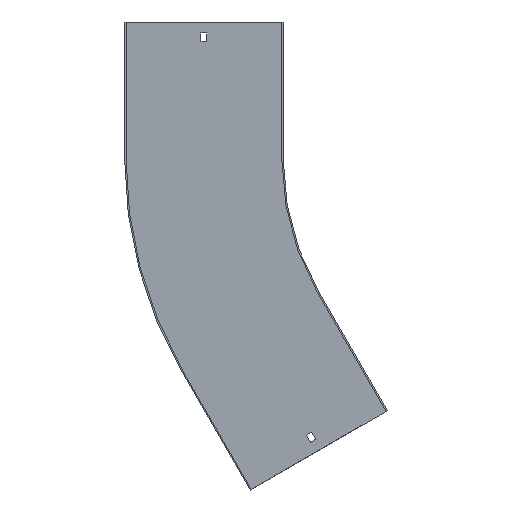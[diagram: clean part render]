
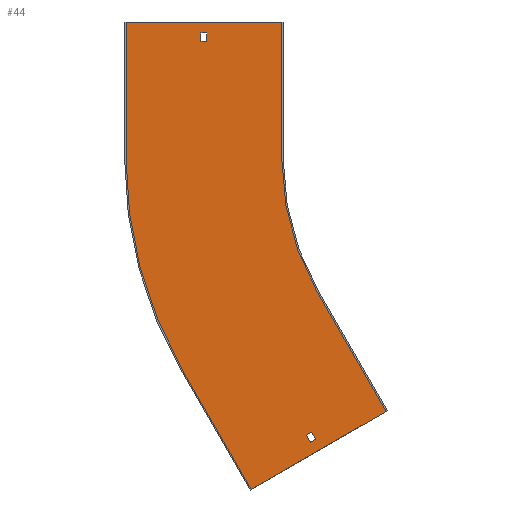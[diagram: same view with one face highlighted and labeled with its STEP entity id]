
A CAD part, front view. The second image highlights one B-rep face of the part: STEP entity #44.
In plain terms, the highlighted planar face has unit normal (0, -1, 0).
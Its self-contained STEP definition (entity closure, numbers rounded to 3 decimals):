
#6 = VERTEX_POINT ( 'NONE', #131 ) ;
#11 = CIRCLE ( 'NONE', #65, 290. ) ;
#15 = VERTEX_POINT ( 'NONE', #75 ) ;
#22 = CARTESIAN_POINT ( 'NONE',  ( -460., -1.5, 0. ) ) ;
#30 = DIRECTION ( 'NONE',  ( -1., 0., 0. ) ) ;
#39 = VECTOR ( 'NONE', #221, 1000. ) ;
#42 = VERTEX_POINT ( 'NONE', #393 ) ;
#44 = ADVANCED_FACE ( 'NONE', ( #315, #719, #53 ), #255, .T. ) ;
#45 = VERTEX_POINT ( 'NONE', #64 ) ;
#53 = FACE_BOUND ( 'NONE', #481, .T. ) ;
#64 = CARTESIAN_POINT ( 'NONE',  ( -371.75, -1.5, 129. ) ) ;
#65 = AXIS2_PLACEMENT_3D ( 'NONE', #683, #155, #600 ) ;
#75 = CARTESIAN_POINT ( 'NONE',  ( -398.372, -1.5, -230. ) ) ;
#83 = EDGE_CURVE ( 'NONE', #348, #177, #862, .T. ) ;
#84 = ORIENTED_EDGE ( 'NONE', *, *, #644, .F. ) ;
#87 = ORIENTED_EDGE ( 'NONE', *, *, #407, .F. ) ;
#92 = CARTESIAN_POINT ( 'NONE',  ( -323.372, -1.5, -359.904 ) ) ;
#94 = CIRCLE ( 'NONE', #579, 460. ) ;
#98 = DIRECTION ( 'NONE',  ( -0.866, 0., -0.5 ) ) ;
#105 = LINE ( 'NONE', #370, #525 ) ;
#116 = CARTESIAN_POINT ( 'NONE',  ( -378.25, -1.5, 138. ) ) ;
#118 = VERTEX_POINT ( 'NONE', #181 ) ;
#131 = CARTESIAN_POINT ( 'NONE',  ( -263.074, -1.5, -300.842 ) ) ;
#132 = VERTEX_POINT ( 'NONE', #449 ) ;
#146 = CARTESIAN_POINT ( 'NONE',  ( -258.574, -1.5, -308.637 ) ) ;
#153 = VECTOR ( 'NONE', #241, 1000. ) ;
#155 = DIRECTION ( 'NONE',  ( 0., -1., 0. ) ) ;
#158 = EDGE_CURVE ( 'NONE', #15, #206, #94, .T. ) ;
#161 = ORIENTED_EDGE ( 'NONE', *, *, #725, .F. ) ;
#170 = ORIENTED_EDGE ( 'NONE', *, *, #286, .T. ) ;
#171 = CARTESIAN_POINT ( 'NONE',  ( -321.945, -1.5, -185.875 ) ) ;
#177 = VERTEX_POINT ( 'NONE', #116 ) ;
#181 = CARTESIAN_POINT ( 'NONE',  ( -290., -1.5, 0. ) ) ;
#188 = CARTESIAN_POINT ( 'NONE',  ( 0., -1.5, 0. ) ) ;
#192 = CARTESIAN_POINT ( 'NONE',  ( 0., -1.5, 0. ) ) ;
#193 = EDGE_LOOP ( 'NONE', ( #335, #87, #161, #281 ) ) ;
#194 = LINE ( 'NONE', #463, #609 ) ;
#195 = DIRECTION ( 'NONE',  ( 0., -1., 0. ) ) ;
#202 = DIRECTION ( 'NONE',  ( 1., 0., 0. ) ) ;
#206 = VERTEX_POINT ( 'NONE', #22 ) ;
#208 = EDGE_CURVE ( 'NONE', #550, #459, #737, .T. ) ;
#221 = DIRECTION ( 'NONE',  ( 0.5, 0., -0.866 ) ) ;
#226 = CARTESIAN_POINT ( 'NONE',  ( -290., -1.5, 150. ) ) ;
#232 = VERTEX_POINT ( 'NONE', #795 ) ;
#235 = LINE ( 'NONE', #505, #458 ) ;
#241 = DIRECTION ( 'NONE',  ( 0., 0., -1. ) ) ;
#245 = VECTOR ( 'NONE', #667, 1000. ) ;
#247 = DIRECTION ( 'NONE',  ( 0., 1., 0. ) ) ;
#255 = PLANE ( 'NONE',  #771 ) ;
#256 = ORIENTED_EDGE ( 'NONE', *, *, #534, .F. ) ;
#259 = VECTOR ( 'NONE', #30, 1000. ) ;
#264 = LINE ( 'NONE', #740, #502 ) ;
#281 = ORIENTED_EDGE ( 'NONE', *, *, #378, .F. ) ;
#286 = EDGE_CURVE ( 'NONE', #232, #45, #350, .T. ) ;
#288 = CARTESIAN_POINT ( 'NONE',  ( 0., -1.5, 129. ) ) ;
#289 = CARTESIAN_POINT ( 'NONE',  ( -378.25, -1.5, 129. ) ) ;
#315 = FACE_BOUND ( 'NONE', #193, .T. ) ;
#322 = CARTESIAN_POINT ( 'NONE',  ( -176.147, -1.5, -274.904 ) ) ;
#335 = ORIENTED_EDGE ( 'NONE', *, *, #751, .F. ) ;
#342 = CARTESIAN_POINT ( 'NONE',  ( -251.147, -1.5, -145. ) ) ;
#348 = VERTEX_POINT ( 'NONE', #289 ) ;
#350 = LINE ( 'NONE', #542, #817 ) ;
#362 = CARTESIAN_POINT ( 'NONE',  ( -460., -1.5, 150. ) ) ;
#365 = ORIENTED_EDGE ( 'NONE', *, *, #83, .T. ) ;
#368 = ORIENTED_EDGE ( 'NONE', *, *, #686, .F. ) ;
#369 = LINE ( 'NONE', #690, #488 ) ;
#370 = CARTESIAN_POINT ( 'NONE',  ( 69., -1.5, -119.512 ) ) ;
#372 = VECTOR ( 'NONE', #687, 1000. ) ;
#373 = ORIENTED_EDGE ( 'NONE', *, *, #783, .F. ) ;
#378 = EDGE_CURVE ( 'NONE', #42, #6, #235, .T. ) ;
#383 = VERTEX_POINT ( 'NONE', #362 ) ;
#393 = CARTESIAN_POINT ( 'NONE',  ( -257.445, -1.5, -297.592 ) ) ;
#407 = EDGE_CURVE ( 'NONE', #642, #132, #105, .T. ) ;
#411 = VERTEX_POINT ( 'NONE', #629 ) ;
#413 = CARTESIAN_POINT ( 'NONE',  ( -174.848, -1.5, -274.154 ) ) ;
#422 = LINE ( 'NONE', #288, #259 ) ;
#430 = VECTOR ( 'NONE', #467, 1000. ) ;
#449 = CARTESIAN_POINT ( 'NONE',  ( -252.945, -1.5, -305.387 ) ) ;
#456 = VECTOR ( 'NONE', #736, 1000. ) ;
#458 = VECTOR ( 'NONE', #98, 1000. ) ;
#459 = VERTEX_POINT ( 'NONE', #92 ) ;
#463 = CARTESIAN_POINT ( 'NONE',  ( -461.5, -1.5, 150. ) ) ;
#467 = DIRECTION ( 'NONE',  ( -0.866, 0., -0.5 ) ) ;
#477 = DIRECTION ( 'NONE',  ( -0.5, 0., 0.866 ) ) ;
#481 = EDGE_LOOP ( 'NONE', ( #735, #170, #855, #365 ) ) ;
#488 = VECTOR ( 'NONE', #753, 1000. ) ;
#502 = VECTOR ( 'NONE', #477, 1000. ) ;
#505 = CARTESIAN_POINT ( 'NONE',  ( 64.5, -1.5, -111.717 ) ) ;
#516 = EDGE_LOOP ( 'NONE', ( #685, #373, #698, #575, #763, #368, #84, #256 ) ) ;
#525 = VECTOR ( 'NONE', #700, 1000. ) ;
#527 = DIRECTION ( 'NONE',  ( 0., 0., -1. ) ) ;
#534 = EDGE_CURVE ( 'NONE', #716, #118, #648, .T. ) ;
#537 = DIRECTION ( 'NONE',  ( 0., 0., -1. ) ) ;
#542 = CARTESIAN_POINT ( 'NONE',  ( -371.75, -1.5, 0. ) ) ;
#550 = VERTEX_POINT ( 'NONE', #322 ) ;
#565 = EDGE_CURVE ( 'NONE', #383, #716, #194, .T. ) ;
#570 = LINE ( 'NONE', #767, #39 ) ;
#575 = ORIENTED_EDGE ( 'NONE', *, *, #658, .F. ) ;
#579 = AXIS2_PLACEMENT_3D ( 'NONE', #188, #247, #660 ) ;
#595 = LINE ( 'NONE', #861, #456 ) ;
#600 = DIRECTION ( 'NONE',  ( 0., 0., -1. ) ) ;
#609 = VECTOR ( 'NONE', #202, 1000. ) ;
#625 = EDGE_CURVE ( 'NONE', #177, #232, #595, .T. ) ;
#629 = CARTESIAN_POINT ( 'NONE',  ( -251.147, -1.5, -145. ) ) ;
#642 = VERTEX_POINT ( 'NONE', #146 ) ;
#644 = EDGE_CURVE ( 'NONE', #118, #411, #11, .T. ) ;
#648 = LINE ( 'NONE', #772, #153 ) ;
#658 = EDGE_CURVE ( 'NONE', #459, #15, #264, .T. ) ;
#660 = DIRECTION ( 'NONE',  ( 0., 0., -1. ) ) ;
#664 = CARTESIAN_POINT ( 'NONE',  ( -378.25, -1.5, 0. ) ) ;
#667 = DIRECTION ( 'NONE',  ( 0.5, 0., -0.866 ) ) ;
#683 = CARTESIAN_POINT ( 'NONE',  ( 0., -1.5, 0. ) ) ;
#685 = ORIENTED_EDGE ( 'NONE', *, *, #565, .F. ) ;
#686 = EDGE_CURVE ( 'NONE', #411, #550, #730, .T. ) ;
#687 = DIRECTION ( 'NONE',  ( -0.5, 0., 0.866 ) ) ;
#690 = CARTESIAN_POINT ( 'NONE',  ( -460., -1.5, 0. ) ) ;
#698 = ORIENTED_EDGE ( 'NONE', *, *, #158, .F. ) ;
#700 = DIRECTION ( 'NONE',  ( 0.866, 0., 0.5 ) ) ;
#716 = VERTEX_POINT ( 'NONE', #226 ) ;
#719 = FACE_OUTER_BOUND ( 'NONE', #516, .T. ) ;
#725 = EDGE_CURVE ( 'NONE', #6, #642, #570, .T. ) ;
#730 = LINE ( 'NONE', #342, #245 ) ;
#732 = VECTOR ( 'NONE', #850, 1000. ) ;
#735 = ORIENTED_EDGE ( 'NONE', *, *, #625, .T. ) ;
#736 = DIRECTION ( 'NONE',  ( 1., 0., 0. ) ) ;
#737 = LINE ( 'NONE', #413, #430 ) ;
#740 = CARTESIAN_POINT ( 'NONE',  ( -323.372, -1.5, -359.904 ) ) ;
#741 = EDGE_CURVE ( 'NONE', #45, #348, #422, .T. ) ;
#751 = EDGE_CURVE ( 'NONE', #132, #42, #823, .T. ) ;
#753 = DIRECTION ( 'NONE',  ( 0., 0., 1. ) ) ;
#763 = ORIENTED_EDGE ( 'NONE', *, *, #208, .F. ) ;
#767 = CARTESIAN_POINT ( 'NONE',  ( -327.574, -1.5, -189.125 ) ) ;
#771 = AXIS2_PLACEMENT_3D ( 'NONE', #192, #195, #527 ) ;
#772 = CARTESIAN_POINT ( 'NONE',  ( -290., -1.5, 150. ) ) ;
#783 = EDGE_CURVE ( 'NONE', #206, #383, #369, .T. ) ;
#795 = CARTESIAN_POINT ( 'NONE',  ( -371.75, -1.5, 138. ) ) ;
#817 = VECTOR ( 'NONE', #537, 1000. ) ;
#823 = LINE ( 'NONE', #171, #372 ) ;
#850 = DIRECTION ( 'NONE',  ( 0., 0., 1. ) ) ;
#855 = ORIENTED_EDGE ( 'NONE', *, *, #741, .T. ) ;
#861 = CARTESIAN_POINT ( 'NONE',  ( 0., -1.5, 138. ) ) ;
#862 = LINE ( 'NONE', #664, #732 ) ;
